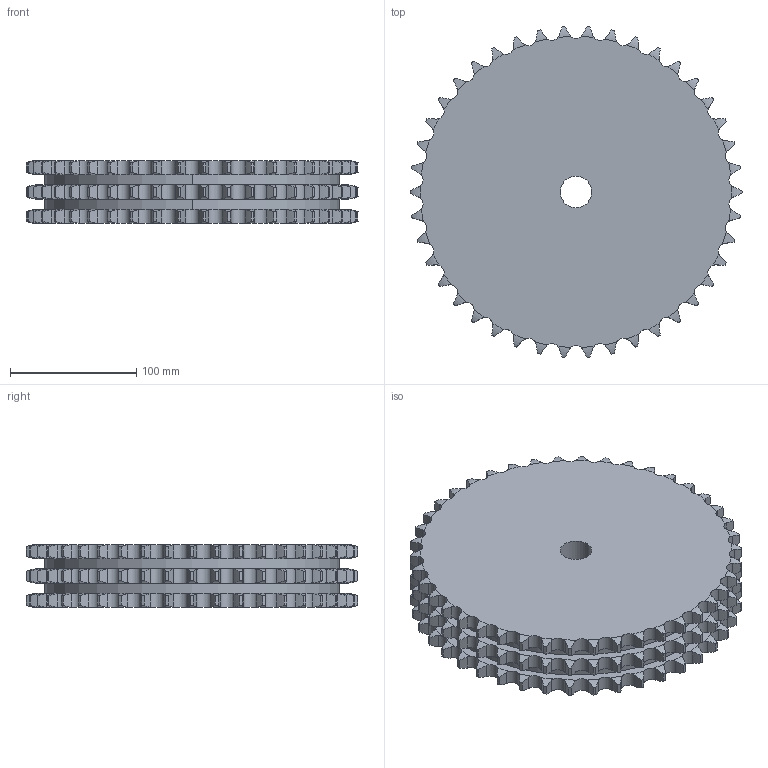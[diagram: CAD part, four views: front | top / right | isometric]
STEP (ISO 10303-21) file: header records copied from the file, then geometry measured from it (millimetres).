
FILE_DESCRIPTION((''),'2;1');
FILE_NAME('500-403-0042_PRT','2021-02-12T',('Brieden'),('Brieden'),'PRO/ENGINEER BY PARAMETRIC TECHNOLOGY CORPORATION, 2010160','PRO/ENGINEER BY PARAMETRIC TECHNOLOGY CORPORATION, 2010160','');
FILE_SCHEMA(('AUTOMOTIVE_DESIGN { 1 0 10303 214 1 1 1 1 }'));
Length unit declared in the file: millimetre
Products named in the file (1): 500-403-0042_PRT
Bounding box: 262.62 x 262.03 x 49.8 mm (x, y, z)
Volume: 2311686.4 mm3; surface area: 177815.2 mm2
Topology: 1 solids, 1 shells, 768 faces, 2286 edges, 1524 vertices
Faces by surface type: cylinder 510, torus 252, plane 6
Entity records: 37961 total; most frequent: CARTESIAN_POINT 11648, ORIENTED_EDGE 4572, DIRECTION 3582, PRESENTATION_STYLE_ASSIGNMENT 2287, STYLED_ITEM 2287, CURVE_STYLE 2286, EDGE_CURVE 2286, AXIS2_PLACEMENT_3D 1536
